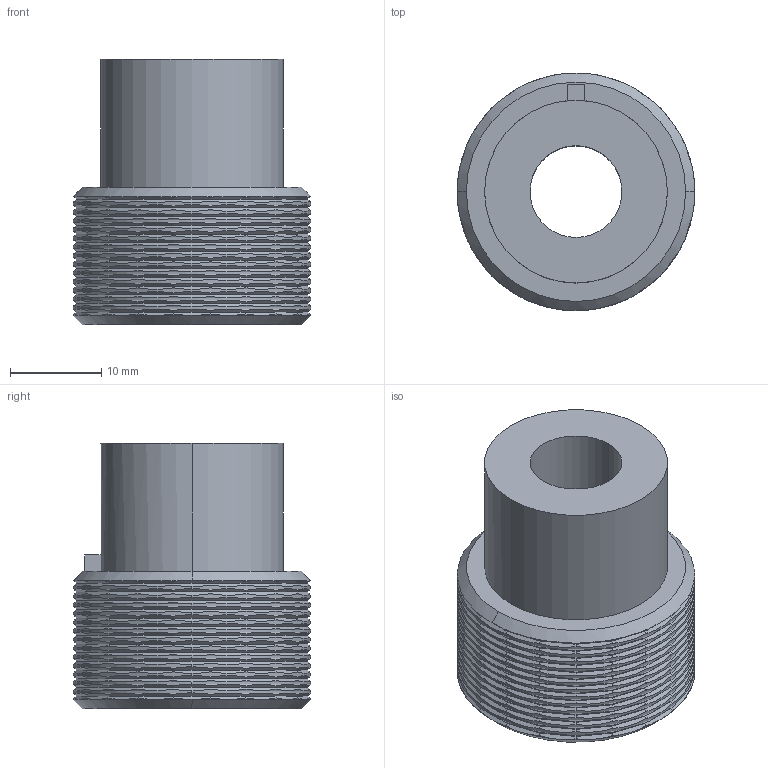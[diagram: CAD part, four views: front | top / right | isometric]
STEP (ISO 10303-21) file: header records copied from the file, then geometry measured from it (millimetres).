
FILE_DESCRIPTION (( 'STEP AP214' ), '1' );
FILE_NAME ('DrillGuide_Bore.STEP', '2022-11-14T20:38:13', ( '' ), ( '' ), 'SwSTEP 2.0', 'SolidWorks 2021', '' );
FILE_SCHEMA (( 'AUTOMOTIVE_DESIGN' ));
Length unit declared in the file: millimetre
Products named in the file (1): DrillGuide_Bore
Bounding box: 26 x 26 x 29 mm (x, y, z)
Volume: 9883.2 mm3; surface area: 4107.3 mm2
Topology: 1 solids, 1 shells, 641 faces, 1612 edges, 974 vertices
Faces by surface type: plane 567, cylinder 70, cone 4
Entity records: 18484 total; most frequent: CARTESIAN_POINT 5250, ORIENTED_EDGE 3224, DIRECTION 2276, EDGE_CURVE 1612, VERTEX_POINT 974, LINE 884, VECTOR 884, AXIS2_PLACEMENT_3D 696
